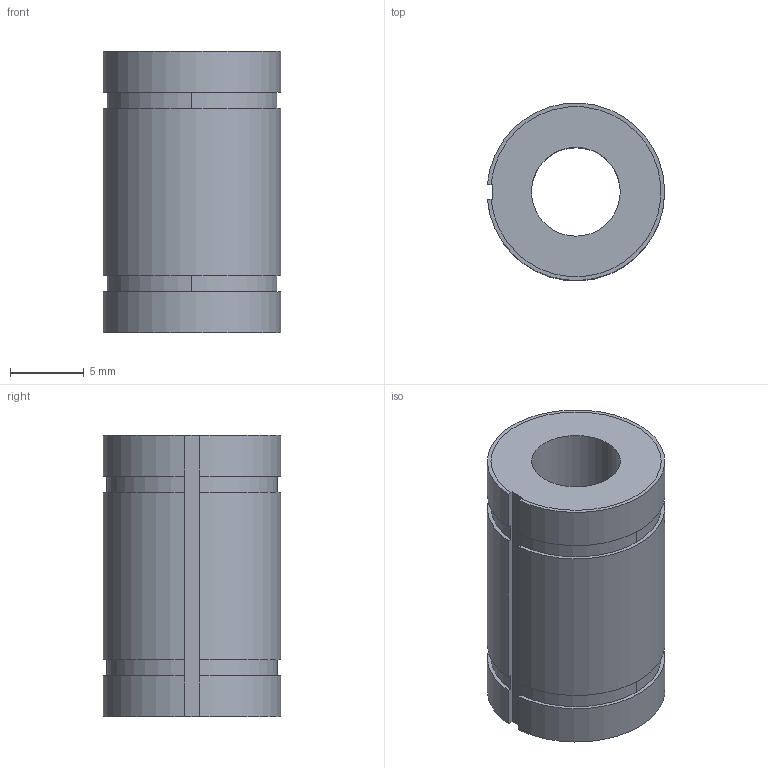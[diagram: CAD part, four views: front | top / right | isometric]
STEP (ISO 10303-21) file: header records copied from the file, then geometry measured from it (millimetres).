
FILE_DESCRIPTION((''),'2;1');
FILE_NAME('C:\Documents and Settings\ｿﾀﾀ蠑ｷ1\ｹﾙﾅﾁ ﾈｭｸ饅\ｺﾎﾇｰﾆﾄﾀﾏ\ﾁｦﾇｰ\LM__UUAJ\LM6UUAJ.stp','2005-06-14T16:20:58',('ｿﾀﾀ蠑ｷ1'),(''),'Autodesk Inventor 9','Autodesk Inventor 9','');
FILE_SCHEMA(('AUTOMOTIVE_DESIGN { 1 0 10303 214 1 1 1 1 }'));
Length unit declared in the file: millimetre
Products named in the file (1): LM__AJ
Bounding box: 11.98 x 11.99 x 19 mm (x, y, z)
Volume: 1584.4 mm3; surface area: 1289 mm2
Topology: 1 solids, 1 shells, 25 faces, 70 edges, 47 vertices
Faces by surface type: cylinder 14, plane 11
Entity records: 850 total; most frequent: DIRECTION 153, CARTESIAN_POINT 143, ORIENTED_EDGE 140, EDGE_CURVE 70, AXIS2_PLACEMENT_3D 57, VERTEX_POINT 47, VECTOR 39, LINE 39
